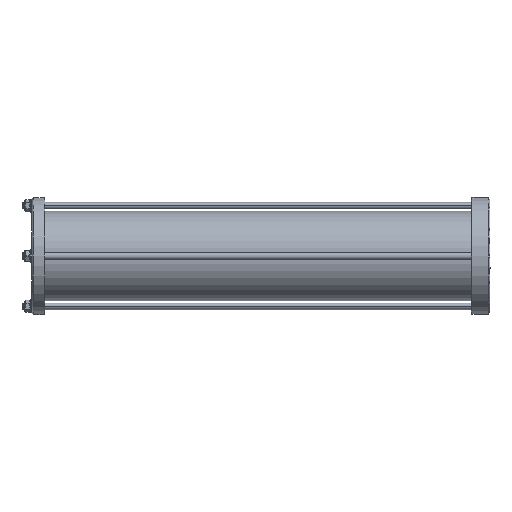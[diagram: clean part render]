
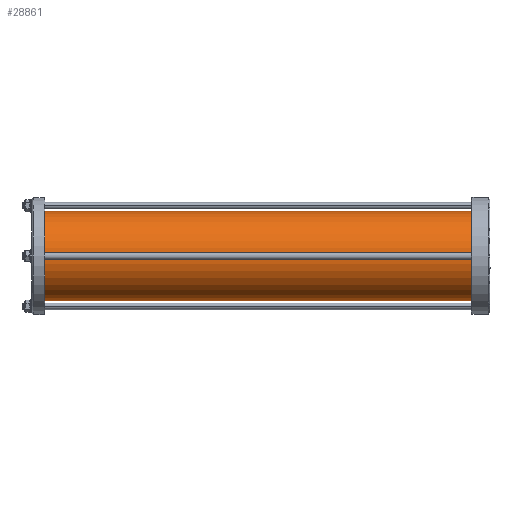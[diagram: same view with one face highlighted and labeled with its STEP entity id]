
A CAD part, left-side view. The second image highlights one B-rep face of the part: STEP entity #28861.
In plain terms, the highlighted cylindrical face has radius 41 mm (diameter 82 mm), a partial arc.
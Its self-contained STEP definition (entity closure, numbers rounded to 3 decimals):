
#523 = EDGE_CURVE ( 'NONE', #37958, #40943, #45436, .T. ) ;
#3524 = DIRECTION ( 'NONE',  ( 0., 1., 0. ) ) ;
#5199 = VECTOR ( 'NONE', #52401, 1000. ) ;
#7332 = FACE_OUTER_BOUND ( 'NONE', #37498, .T. ) ;
#9588 = VECTOR ( 'NONE', #16598, 1000. ) ;
#14937 = AXIS2_PLACEMENT_3D ( 'NONE', #30971, #22524, #56979 ) ;
#16303 = LINE ( 'NONE', #52801, #9588 ) ;
#16598 = DIRECTION ( 'NONE',  ( 0., -1., 0. ) ) ;
#19509 = EDGE_CURVE ( 'NONE', #44300, #37958, #42474, .T. ) ;
#20247 = AXIS2_PLACEMENT_3D ( 'NONE', #47355, #3524, #34787 ) ;
#20638 = EDGE_CURVE ( 'NONE', #44300, #26934, #38823, .T. ) ;
#22524 = DIRECTION ( 'NONE',  ( 0., -1., 0. ) ) ;
#25197 = CYLINDRICAL_SURFACE ( 'NONE', #14937, 41. ) ;
#25596 = ORIENTED_EDGE ( 'NONE', *, *, #19509, .T. ) ;
#26934 = VERTEX_POINT ( 'NONE', #36466 ) ;
#28861 = ADVANCED_FACE ( 'NONE', ( #7332 ), #25197, .T. ) ;
#30624 = CARTESIAN_POINT ( 'NONE',  ( 40.045, 23.458, 142.617 ) ) ;
#30971 = CARTESIAN_POINT ( 'NONE',  ( 40.045, 421.458, 101.617 ) ) ;
#31377 = AXIS2_PLACEMENT_3D ( 'NONE', #55835, #57290, #35082 ) ;
#34598 = CARTESIAN_POINT ( 'NONE',  ( 40.045, 421.458, 60.617 ) ) ;
#34787 = DIRECTION ( 'NONE',  ( 0., 0., 1. ) ) ;
#35082 = DIRECTION ( 'NONE',  ( 0., 0., 1. ) ) ;
#35830 = CARTESIAN_POINT ( 'NONE',  ( 40.045, 23.458, 60.617 ) ) ;
#36466 = CARTESIAN_POINT ( 'NONE',  ( 40.045, 421.458, 142.617 ) ) ;
#37498 = EDGE_LOOP ( 'NONE', ( #40881, #45326, #25596, #41400 ) ) ;
#37958 = VERTEX_POINT ( 'NONE', #35830 ) ;
#38823 = CIRCLE ( 'NONE', #31377, 41. ) ;
#40881 = ORIENTED_EDGE ( 'NONE', *, *, #46033, .F. ) ;
#40943 = VERTEX_POINT ( 'NONE', #30624 ) ;
#41400 = ORIENTED_EDGE ( 'NONE', *, *, #523, .T. ) ;
#42474 = LINE ( 'NONE', #34598, #5199 ) ;
#44300 = VERTEX_POINT ( 'NONE', #44610 ) ;
#44610 = CARTESIAN_POINT ( 'NONE',  ( 40.045, 421.458, 60.617 ) ) ;
#45326 = ORIENTED_EDGE ( 'NONE', *, *, #20638, .F. ) ;
#45436 = CIRCLE ( 'NONE', #20247, 41. ) ;
#46033 = EDGE_CURVE ( 'NONE', #26934, #40943, #16303, .T. ) ;
#47355 = CARTESIAN_POINT ( 'NONE',  ( 40.045, 23.458, 101.617 ) ) ;
#52401 = DIRECTION ( 'NONE',  ( 0., -1., 0. ) ) ;
#52801 = CARTESIAN_POINT ( 'NONE',  ( 40.045, 421.458, 142.617 ) ) ;
#55835 = CARTESIAN_POINT ( 'NONE',  ( 40.045, 421.458, 101.617 ) ) ;
#56979 = DIRECTION ( 'NONE',  ( 0., 0., -1. ) ) ;
#57290 = DIRECTION ( 'NONE',  ( 0., 1., 0. ) ) ;
